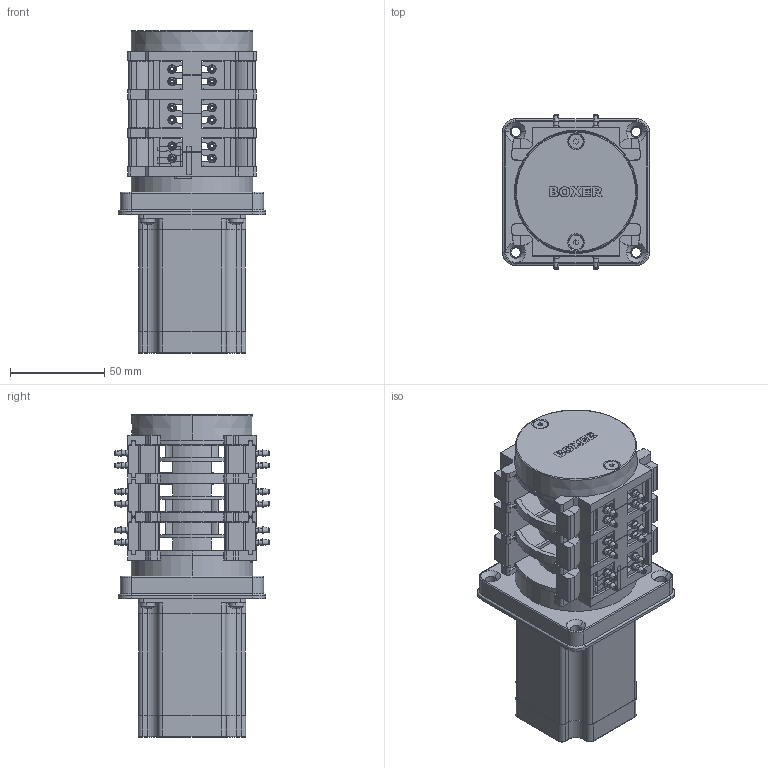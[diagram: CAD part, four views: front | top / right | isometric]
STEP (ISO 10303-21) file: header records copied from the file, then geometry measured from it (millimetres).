
FILE_DESCRIPTION (( 'STEP AP203' ), '1' );
FILE_NAME ('6343.100-1mm.STEP', '2018-10-22T18:04:00', ( '' ), ( '' ), 'SwSTEP 2.0', 'SolidWorks 2015', '' );
FILE_SCHEMA (( 'CONFIG_CONTROL_DESIGN' ));
Length unit declared in the file: millimetre
Products named in the file (1): 6343.100-1mm
Bounding box: 78 x 81.95 x 171 mm (x, y, z)
Surface area: 97775.6 mm2 (no closed solid volume)
Topology: 0 solids, 112 shells, 1383 faces, 5006 edges, 3611 vertices
Faces by surface type: plane 668, cylinder 475, cone 175, torus 38, bspline 19, sphere 8
Entity records: 54777 total; most frequent: CARTESIAN_POINT 11522, DIRECTION 9463, ORIENTED_EDGE 7816, EDGE_CURVE 5006, VERTEX_POINT 3611, AXIS2_PLACEMENT_3D 3192, VECTOR 3079, LINE 3079
